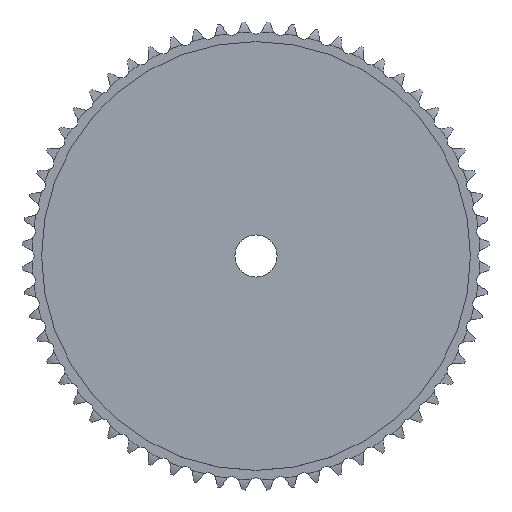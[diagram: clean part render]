
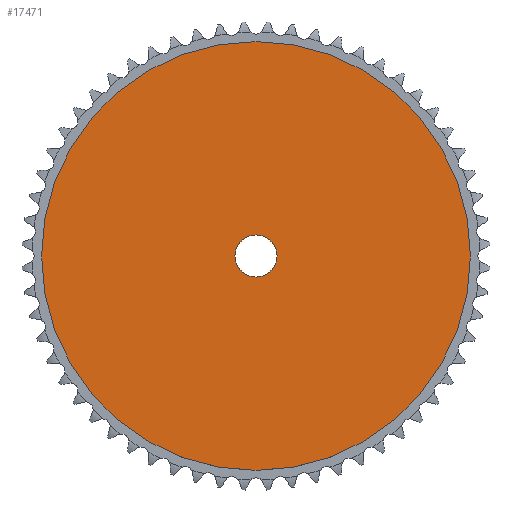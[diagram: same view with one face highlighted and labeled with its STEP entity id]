
A CAD part, top view. The second image highlights one B-rep face of the part: STEP entity #17471.
In plain terms, the highlighted planar face has unit normal (0, 0, 1).
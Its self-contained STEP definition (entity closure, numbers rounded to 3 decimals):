
#9909=CARTESIAN_POINT('',(0.,0.,2.));
#9910=DIRECTION('',(0.,0.,-1.));
#9911=DIRECTION('',(-1.,0.,0.));
#9912=AXIS2_PLACEMENT_3D('',#9909,#9910,#9911);
#9917=CARTESIAN_POINT('',(0.,0.,2.));
#9918=DIRECTION('',(0.,0.,-1.));
#9919=DIRECTION('',(1.,0.,0.));
#9920=AXIS2_PLACEMENT_3D('',#9917,#9918,#9919);
#9925=CARTESIAN_POINT('',(0.,0.,2.));
#9926=DIRECTION('',(0.,0.,1.));
#9927=DIRECTION('',(1.,0.,0.));
#9928=AXIS2_PLACEMENT_3D('',#9925,#9926,#9927);
#9933=CARTESIAN_POINT('',(0.,0.,2.));
#9934=DIRECTION('',(0.,0.,1.));
#9935=DIRECTION('',(-1.,0.,0.));
#9936=AXIS2_PLACEMENT_3D('',#9933,#9934,#9935);
#11006=CARTESIAN_POINT('',(-71.429,0.,2.));
#11007=CARTESIAN_POINT('',(71.429,0.,2.));
#11008=VERTEX_POINT('',#11006);
#11009=VERTEX_POINT('',#11007);
#11026=CARTESIAN_POINT('',(7.,0.,2.));
#11027=VERTEX_POINT('',#11026);
#11028=CARTESIAN_POINT('',(-7.,0.,2.));
#11029=VERTEX_POINT('',#11028);
#17456=CARTESIAN_POINT('',(0.,0.,2.));
#17457=DIRECTION('',(0.,0.,1.));
#17458=DIRECTION('',(1.,0.,0.));
#17459=AXIS2_PLACEMENT_3D('',#17456,#17457,#17458);
#17460=PLANE('',#17459);
#17461=ORIENTED_EDGE('',*,*,#17408,.T.);
#17462=ORIENTED_EDGE('',*,*,#17437,.T.);
#17463=EDGE_LOOP('',(#17461,#17462));
#17464=FACE_OUTER_BOUND('',#17463,.F.);
#17466=ORIENTED_EDGE('',*,*,#17465,.T.);
#17468=ORIENTED_EDGE('',*,*,#17467,.T.);
#17469=EDGE_LOOP('',(#17466,#17468));
#17470=FACE_BOUND('',#17469,.F.);
#17471=ADVANCED_FACE('',(#17464,#17470),#17460,.T.);
#9913=CIRCLE('',#9912,71.429);
#9921=CIRCLE('',#9920,71.429);
#9929=CIRCLE('',#9928,7.);
#9937=CIRCLE('',#9936,7.);
#17408=EDGE_CURVE('',#11008,#11009,#9913,.T.);
#17437=EDGE_CURVE('',#11009,#11008,#9921,.T.);
#17465=EDGE_CURVE('',#11027,#11029,#9929,.T.);
#17467=EDGE_CURVE('',#11029,#11027,#9937,.T.);
